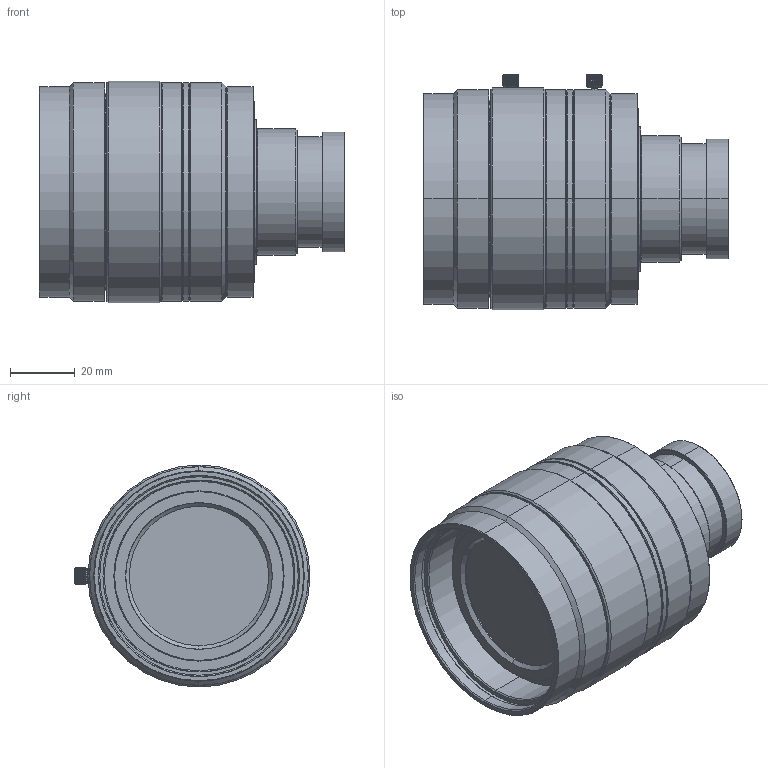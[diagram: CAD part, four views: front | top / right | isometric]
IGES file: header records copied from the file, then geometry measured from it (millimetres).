
Start section: SolidWorks IGES file using analytic representation for surfaces
Global section: file name: C:\Box\01_P&J_製品_治工具\02_P&C_製品・受託案件\04_MM番(MV)\M2201-M2300\M2222A(D-2400252)_VS-VNC5028\04_PAD_製品外観図\00 P3D 3D\VS-VNC5028_Drawing_M2222A-A00101.IGS; native system: SolidWorks 2024; preprocessor: SolidWorks 2024; author: kimura_vst; date: 250723.085854; units: millimetre
Bounding box: 94.3 x 72.8 x 68.5 mm (x, y, z)
Surface area: 34639.7 mm2 (no closed solid volume)
Topology: 0 solids, 0 shells, 314 faces, 4428 edges, 4428 vertices
Faces by surface type: revolution 180, bspline 134
